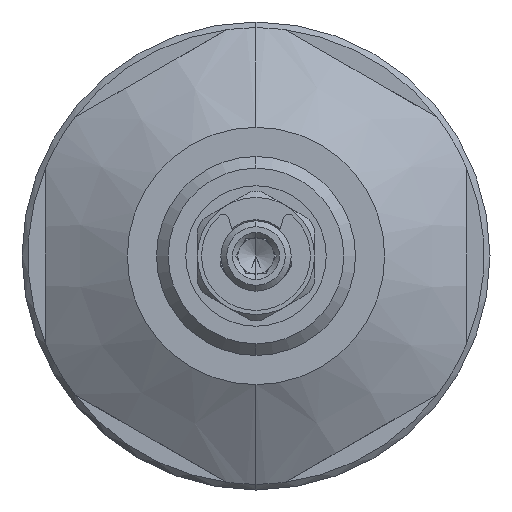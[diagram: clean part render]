
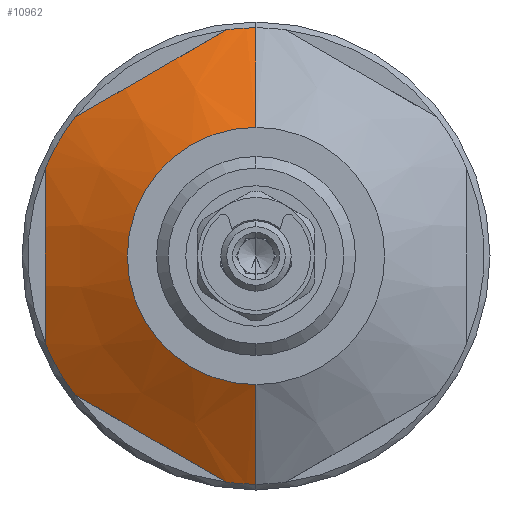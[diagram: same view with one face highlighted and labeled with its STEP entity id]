
A CAD part, left-side view. The second image highlights one B-rep face of the part: STEP entity #10962.
In plain terms, the highlighted conical face has half-angle 60 degrees and reference radius 19.5 mm.
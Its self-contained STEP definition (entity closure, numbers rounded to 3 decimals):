
#93 = EDGE_LOOP ( 'NONE', ( #12622, #15792, #3146, #650, #15567, #2163, #14536, #12901, #4588, #10899 ) ) ;
#118 = AXIS2_PLACEMENT_3D ( 'NONE', #12907, #12888, #12881 ) ;
#288 = CARTESIAN_POINT ( 'NONE',  ( 17.907, 15.495, 11.838 ) ) ;
#485 = AXIS2_PLACEMENT_3D ( 'NONE', #15972, #15951, #15906 ) ;
#530 = AXIS2_PLACEMENT_3D ( 'NONE', #16583, #16563, #16533 ) ;
#644 = AXIS2_PLACEMENT_3D ( 'NONE', #5496, #6557, #6402 ) ;
#650 = ORIENTED_EDGE ( 'NONE', *, *, #5151, .F. ) ;
#668 = AXIS2_PLACEMENT_3D ( 'NONE', #7147, #7162, #6924 ) ;
#1344 = CARTESIAN_POINT ( 'NONE',  ( 17.633, 18., -6.262 ) ) ;
#1633 = CARTESIAN_POINT ( 'NONE',  ( 13., 0., -11. ) ) ;
#2138 = VERTEX_POINT ( 'NONE', #7525 ) ;
#2163 = ORIENTED_EDGE ( 'NONE', *, *, #5179, .F. ) ;
#2235 = VECTOR ( 'NONE', #13004, 1000. ) ;
#2477 = LINE ( 'NONE', #4572, #2235 ) ;
#3146 = ORIENTED_EDGE ( 'NONE', *, *, #5126, .F. ) ;
#3505 = CARTESIAN_POINT ( 'NONE',  ( 17.907, 18., 7.5 ) ) ;
#3933 = DIRECTION ( 'NONE',  ( 0., 0., -1. ) ) ;
#4109 = CIRCLE ( 'NONE', #485, 19.5 ) ;
#4264 = VECTOR ( 'NONE', #7950, 1000. ) ;
#4278 = CIRCLE ( 'NONE', #644, 19.5 ) ;
#4293 = LINE ( 'NONE', #7206, #4264 ) ;
#4366 = CIRCLE ( 'NONE', #668, 11. ) ;
#4563 = CARTESIAN_POINT ( 'NONE',  ( 17.907, 0., -19.5 ) ) ;
#4572 = CARTESIAN_POINT ( 'NONE',  ( 17.907, 0., -19.5 ) ) ;
#4588 = ORIENTED_EDGE ( 'NONE', *, *, #5356, .F. ) ;
#4636 = CARTESIAN_POINT ( 'NONE',  ( 17.907, 2.505, 19.338 ) ) ;
#4784 = CARTESIAN_POINT ( 'NONE',  ( 17.632, 3.578, 18.719 ) ) ;
#4890 = CARTESIAN_POINT ( 'NONE',  ( 17.191, 6.295, 17.15 ) ) ;
#4900 = CARTESIAN_POINT ( 'NONE',  ( 17.413, 4.659, 18.095 ) ) ;
#5120 = EDGE_CURVE ( 'NONE', #13707, #10555, #4366, .T. ) ;
#5124 = EDGE_CURVE ( 'NONE', #10555, #2138, #4293, .T. ) ;
#5126 = EDGE_CURVE ( 'NONE', #10997, #2138, #4278, .T. ) ;
#5151 = EDGE_CURVE ( 'NONE', #10125, #10997, #12189, .T. ) ;
#5173 = EDGE_CURVE ( 'NONE', #15590, #10125, #13027, .T. ) ;
#5179 = EDGE_CURVE ( 'NONE', #17071, #15590, #5675, .T. ) ;
#5208 = EDGE_CURVE ( 'NONE', #10502, #17071, #4109, .T. ) ;
#5259 = EDGE_CURVE ( 'NONE', #8083, #10502, #7348, .T. ) ;
#5356 = EDGE_CURVE ( 'NONE', #9512, #8083, #10682, .T. ) ;
#5359 = EDGE_CURVE ( 'NONE', #13707, #9512, #2477, .T. ) ;
#5442 = CARTESIAN_POINT ( 'NONE',  ( 17.134, 6.843, 16.834 ) ) ;
#5496 = CARTESIAN_POINT ( 'NONE',  ( 17.907, 0., 0. ) ) ;
#5619 = CARTESIAN_POINT ( 'NONE',  ( 17.059, 7.934, 16.204 ) ) ;
#5643 = CARTESIAN_POINT ( 'NONE',  ( 17.043, 10.11, 14.948 ) ) ;
#5675 = B_SPLINE_CURVE_WITH_KNOTS ( 'NONE', 3,
 ( #16510, #1344, #11985, #16475, #16452, #16383, #16349, #16319, #16299, #16280, #16236, #16218 ),
 .UNSPECIFIED., .F., .F.,
 ( 4, 2, 2, 2, 2, 4 ),
 ( 0.021, 0.024, 0.028, 0.03, 0.032, 0.036 ),
 .UNSPECIFIED. ) ;
#5676 = CARTESIAN_POINT ( 'NONE',  ( 17.041, 8.479, 15.889 ) ) ;
#5904 = CARTESIAN_POINT ( 'NONE',  ( 17.907, 15.495, 11.838 ) ) ;
#5960 = CARTESIAN_POINT ( 'NONE',  ( 17.12, 11.193, 14.323 ) ) ;
#5975 = CARTESIAN_POINT ( 'NONE',  ( 17.415, 13.35, 13.077 ) ) ;
#6402 = DIRECTION ( 'NONE',  ( 0., 0., -1. ) ) ;
#6419 = CARTESIAN_POINT ( 'NONE',  ( 17.633, 14.424, 12.457 ) ) ;
#6557 = DIRECTION ( 'NONE',  ( 1., 0., 0. ) ) ;
#6924 = DIRECTION ( 'NONE',  ( 0., 0., -1. ) ) ;
#7147 = CARTESIAN_POINT ( 'NONE',  ( 13., 0., 0. ) ) ;
#7162 = DIRECTION ( 'NONE',  ( 1., 0., 0. ) ) ;
#7206 = CARTESIAN_POINT ( 'NONE',  ( 17.907, 0., 19.5 ) ) ;
#7348 = B_SPLINE_CURVE_WITH_KNOTS ( 'NONE', 3,
 ( #14722, #14790, #14834, #14716, #14702, #14685, #14628, #14598, #14550, #14492, #14470, #14454 ),
 .UNSPECIFIED., .F., .F.,
 ( 4, 2, 2, 2, 2, 4 ),
 ( 0., 0.004, 0.008, 0.009, 0.011, 0.015 ),
 .UNSPECIFIED. ) ;
#7525 = CARTESIAN_POINT ( 'NONE',  ( 17.907, 0., 19.5 ) ) ;
#7950 = DIRECTION ( 'NONE',  ( 0.5, 0., 0.866 ) ) ;
#8083 = VERTEX_POINT ( 'NONE', #12853 ) ;
#8139 = CARTESIAN_POINT ( 'NONE',  ( 17.907, 2.505, 19.338 ) ) ;
#8786 = DIRECTION ( 'NONE',  ( 1., 0., 0. ) ) ;
#9512 = VERTEX_POINT ( 'NONE', #4563 ) ;
#10125 = VERTEX_POINT ( 'NONE', #288 ) ;
#10502 = VERTEX_POINT ( 'NONE', #11480 ) ;
#10555 = VERTEX_POINT ( 'NONE', #16315 ) ;
#10682 = CIRCLE ( 'NONE', #118, 19.5 ) ;
#10899 = ORIENTED_EDGE ( 'NONE', *, *, #5359, .F. ) ;
#10962 = ADVANCED_FACE ( 'NONE', ( #11801 ), #11491, .T. ) ;
#10997 = VERTEX_POINT ( 'NONE', #8139 ) ;
#11346 = AXIS2_PLACEMENT_3D ( 'NONE', #13124, #8786, #3933 ) ;
#11480 = CARTESIAN_POINT ( 'NONE',  ( 17.907, 15.495, -11.838 ) ) ;
#11491 = CONICAL_SURFACE ( 'NONE', #11346, 19.5, 1.047 ) ;
#11801 = FACE_OUTER_BOUND ( 'NONE', #93, .T. ) ;
#11985 = CARTESIAN_POINT ( 'NONE',  ( 17.414, 18., -5.016 ) ) ;
#12189 = B_SPLINE_CURVE_WITH_KNOTS ( 'NONE', 3,
 ( #5904, #6419, #5975, #5960, #5643, #5676, #5619, #5442, #4890, #4900, #4784, #4636 ),
 .UNSPECIFIED., .F., .F.,
 ( 4, 2, 2, 2, 2, 4 ),
 ( 0., 0.004, 0.008, 0.009, 0.011, 0.015 ),
 .UNSPECIFIED. ) ;
#12622 = ORIENTED_EDGE ( 'NONE', *, *, #5120, .T. ) ;
#12853 = CARTESIAN_POINT ( 'NONE',  ( 17.907, 2.505, -19.338 ) ) ;
#12881 = DIRECTION ( 'NONE',  ( 0., 0., -1. ) ) ;
#12888 = DIRECTION ( 'NONE',  ( 1., 0., 0. ) ) ;
#12901 = ORIENTED_EDGE ( 'NONE', *, *, #5259, .F. ) ;
#12907 = CARTESIAN_POINT ( 'NONE',  ( 17.907, 0., 0. ) ) ;
#13004 = DIRECTION ( 'NONE',  ( 0.5, 0., -0.866 ) ) ;
#13027 = CIRCLE ( 'NONE', #530, 19.5 ) ;
#13124 = CARTESIAN_POINT ( 'NONE',  ( 17.907, 0., 0. ) ) ;
#13707 = VERTEX_POINT ( 'NONE', #1633 ) ;
#14454 = CARTESIAN_POINT ( 'NONE',  ( 17.907, 15.495, -11.838 ) ) ;
#14470 = CARTESIAN_POINT ( 'NONE',  ( 17.632, 14.422, -12.458 ) ) ;
#14492 = CARTESIAN_POINT ( 'NONE',  ( 17.413, 13.341, -13.082 ) ) ;
#14536 = ORIENTED_EDGE ( 'NONE', *, *, #5208, .F. ) ;
#14550 = CARTESIAN_POINT ( 'NONE',  ( 17.191, 11.705, -14.027 ) ) ;
#14598 = CARTESIAN_POINT ( 'NONE',  ( 17.134, 11.157, -14.343 ) ) ;
#14628 = CARTESIAN_POINT ( 'NONE',  ( 17.059, 10.066, -14.973 ) ) ;
#14685 = CARTESIAN_POINT ( 'NONE',  ( 17.041, 9.521, -15.288 ) ) ;
#14702 = CARTESIAN_POINT ( 'NONE',  ( 17.043, 7.89, -16.229 ) ) ;
#14716 = CARTESIAN_POINT ( 'NONE',  ( 17.12, 6.807, -16.854 ) ) ;
#14722 = CARTESIAN_POINT ( 'NONE',  ( 17.907, 2.505, -19.338 ) ) ;
#14790 = CARTESIAN_POINT ( 'NONE',  ( 17.633, 3.576, -18.72 ) ) ;
#14834 = CARTESIAN_POINT ( 'NONE',  ( 17.415, 4.65, -18.1 ) ) ;
#15188 = CARTESIAN_POINT ( 'NONE',  ( 17.907, 18., -7.5 ) ) ;
#15567 = ORIENTED_EDGE ( 'NONE', *, *, #5173, .F. ) ;
#15590 = VERTEX_POINT ( 'NONE', #3505 ) ;
#15792 = ORIENTED_EDGE ( 'NONE', *, *, #5124, .T. ) ;
#15906 = DIRECTION ( 'NONE',  ( 0., 0., -1. ) ) ;
#15951 = DIRECTION ( 'NONE',  ( 1., 0., 0. ) ) ;
#15972 = CARTESIAN_POINT ( 'NONE',  ( 17.907, 0., 0. ) ) ;
#16218 = CARTESIAN_POINT ( 'NONE',  ( 17.907, 18., 7.5 ) ) ;
#16236 = CARTESIAN_POINT ( 'NONE',  ( 17.635, 18., 6.275 ) ) ;
#16280 = CARTESIAN_POINT ( 'NONE',  ( 17.417, 18., 5.035 ) ) ;
#16299 = CARTESIAN_POINT ( 'NONE',  ( 17.193, 18., 3.145 ) ) ;
#16315 = CARTESIAN_POINT ( 'NONE',  ( 13., 0., 11. ) ) ;
#16319 = CARTESIAN_POINT ( 'NONE',  ( 17.136, 18., 2.511 ) ) ;
#16349 = CARTESIAN_POINT ( 'NONE',  ( 17.06, 18., 1.249 ) ) ;
#16383 = CARTESIAN_POINT ( 'NONE',  ( 17.041, 18., 0.619 ) ) ;
#16452 = CARTESIAN_POINT ( 'NONE',  ( 17.042, 18., -1.267 ) ) ;
#16475 = CARTESIAN_POINT ( 'NONE',  ( 17.119, 18., -2.519 ) ) ;
#16510 = CARTESIAN_POINT ( 'NONE',  ( 17.907, 18., -7.5 ) ) ;
#16533 = DIRECTION ( 'NONE',  ( 0., 0., -1. ) ) ;
#16563 = DIRECTION ( 'NONE',  ( 1., 0., 0. ) ) ;
#16583 = CARTESIAN_POINT ( 'NONE',  ( 17.907, 0., 0. ) ) ;
#17071 = VERTEX_POINT ( 'NONE', #15188 ) ;
